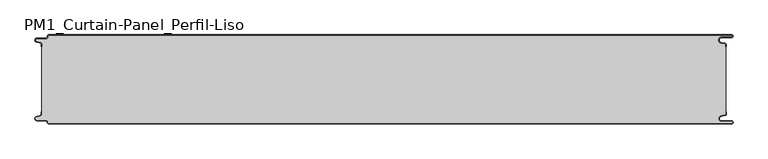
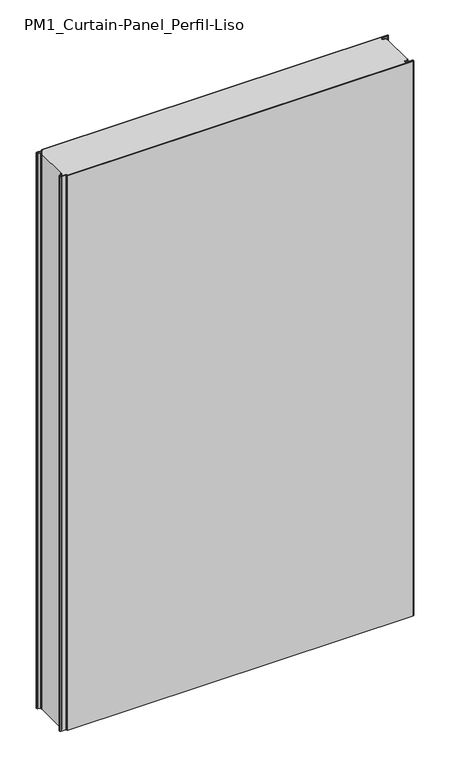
"""IFC4 building model written with IfcOpenShell, lengths in millimetres: plate geometry, PM1_Curtain-Panel_Perfil-Liso : ACH_PM1_Panel-Acústico-Sectorización_150M."""

import ifcopenshell
import ifcopenshell.guid

model = None  # the IFC model being written
_history = None  # IfcOwnerHistory: only IFC2X3 demands one
_inside = {}  # id of a spatial element -> (the spatial element, [elements in it])
_under = {}  # id of a project, library or spatial element -> (it, [spatial elements below it])
_declared = {}  # id of a project -> (the project, [libraries it declares])
_typed = {}  # id of a type object -> (the type object, [elements of that type])
_made_of = {}  # id of a material, layer set ... -> (it, [elements and type objects made of it])


def new_model(schema):
    """Start an empty IFC model of exactly this schema.

    Asked for "IFC4X3", IfcOpenShell would pick the latest addendum, in which some entities
    have other attributes; the version numbers below select the first issue.
    IFC2X3 requires an IfcOwnerHistory on every rooted entity: one is made here for all.
    """
    global model, _history
    if schema == "IFC4X3":
        model = ifcopenshell.file(schema_version=(4, 3, 0, 0))
    else:
        model = ifcopenshell.file(schema=schema)
    _inside.clear()
    _under.clear()
    _declared.clear()
    _typed.clear()
    _made_of.clear()
    _history = None
    if model.schema == "IFC2X3":
        org = make("IfcOrganization", Name="unknown")
        user = make(
            "IfcPersonAndOrganization",
            ThePerson=make("IfcPerson", FamilyName="unknown"),
            TheOrganization=org,
        )
        app = make(
            "IfcApplication",
            ApplicationDeveloper=org,
            Version="unknown",
            ApplicationFullName="unknown",
            ApplicationIdentifier="unknown",
        )
        _history = make(
            "IfcOwnerHistory",
            OwningUser=user,
            OwningApplication=app,
            ChangeAction="ADDED",
            CreationDate=0,
        )
    return model


def make(cls, **values):
    """One entity of the class cls with the attributes given. An attribute that is None is left unset."""
    return model.create_entity(
        cls, **{name: value for name, value in values.items() if value is not None}
    )


def rooted(cls, **values):
    """An entity with a GlobalId (a new one), such as an element, a storey or a relation."""
    return make(cls, GlobalId=ifcopenshell.guid.new(), OwnerHistory=_history, **values)


def si_unit(unit_type, name, prefix=None):
    """IfcSIUnit, for example si_unit("LENGTHUNIT", "METRE", prefix="MILLI")."""
    return make("IfcSIUnit", UnitType=unit_type, Prefix=prefix, Name=name)


def assignment(units):
    """IfcUnitAssignment: the units of a project."""
    return None if units is None else make("IfcUnitAssignment", Units=units)


def point(xyz):
    """IfcCartesianPoint."""
    return None if xyz is None else make("IfcCartesianPoint", Coordinates=xyz)


def direction(xyz):
    """IfcDirection."""
    return None if xyz is None else make("IfcDirection", DirectionRatios=xyz)


def frame(location, z_axis=None, x_axis=None):
    """IfcAxis2Placement3D, a coordinate frame: its origin and axes. An axis left out is left unset."""
    return make(
        "IfcAxis2Placement3D",
        Location=point(location),
        Axis=direction(z_axis),
        RefDirection=direction(x_axis),
    )


def frame_2d(location, x_axis=None):
    """IfcAxis2Placement2D, a coordinate frame in the plane: its origin and x axis."""
    return make(
        "IfcAxis2Placement2D", Location=point(location), RefDirection=direction(x_axis)
    )


def origin():
    """The frame at (0, 0, 0) with its axes left unset."""
    return frame((0.0, 0.0, 0.0))


def origin_with_axes():
    """The frame at (0, 0, 0) with the z axis (0, 0, 1) and the x axis (1, 0, 0) written out."""
    return frame((0.0, 0.0, 0.0), z_axis=(0.0, 0.0, 1.0), x_axis=(1.0, 0.0, 0.0))


def place(relative_to, where):
    """IfcLocalPlacement: puts the frame where relative to a parent placement (None: the world)."""
    return make(
        "IfcLocalPlacement", PlacementRelTo=relative_to, RelativePlacement=where
    )


def context(
    kind, dimensions, precision=None, world=None, true_north=None, identifier=None
):
    """IfcGeometricRepresentationContext, for example the 3D "Model" context."""
    return make(
        "IfcGeometricRepresentationContext",
        ContextIdentifier=identifier,
        ContextType=kind,
        CoordinateSpaceDimension=dimensions,
        Precision=precision,
        WorldCoordinateSystem=world,
        TrueNorth=true_north,
    )


def project(units=None, contexts=None):
    """IfcProject with its units and contexts."""
    return rooted(
        "IfcProject",
        Name="project",
        RepresentationContexts=contexts,
        UnitsInContext=assignment(units),
    )


def spatial(cls, under=None, at=None, **own):
    """A site, building, storey or space (cls), placed at a placement, below another one or the project."""
    s = rooted(cls, ObjectPlacement=at, **own)
    if under is not None:
        _under.setdefault(under.id(), (under, []))[1].append(s)
    return s


def polyline(points):
    """IfcPolyline through the points."""
    return make("IfcPolyline", Points=[point(p) for p in points])


def circle_curve(where, radius):
    """IfcCircle in the frame where."""
    return make("IfcCircle", Position=where, Radius=radius)


def trimmed(basis, trim1, trim2, sense, master):
    """IfcTrimmedCurve: the piece of a basis curve between two trims."""
    return make(
        "IfcTrimmedCurve",
        BasisCurve=basis,
        Trim1=trim1,
        Trim2=trim2,
        SenseAgreement=sense,
        MasterRepresentation=master,
    )


def segment(curve, same_sense, transition):
    """IfcCompositeCurveSegment."""
    return make(
        "IfcCompositeCurveSegment",
        Transition=transition,
        SameSense=same_sense,
        ParentCurve=curve,
    )


def composite_curve(segments, self_intersect=None):
    """IfcCompositeCurve: segments joined end to end."""
    return make("IfcCompositeCurve", Segments=segments, SelfIntersect=self_intersect)


def outline(outer, holes=None, kind="AREA"):
    """IfcArbitraryClosedProfileDef: a profile drawn as a closed curve; with holes, ...WithVoids."""
    if holes is None:
        return make("IfcArbitraryClosedProfileDef", ProfileType=kind, OuterCurve=outer)
    return make(
        "IfcArbitraryProfileDefWithVoids",
        ProfileType=kind,
        OuterCurve=outer,
        InnerCurves=holes,
    )


def extrude(swept, where, along, depth):
    """IfcExtrudedAreaSolid: the profile swept, set in the frame where, extruded along a direction by depth."""
    return make(
        "IfcExtrudedAreaSolid",
        SweptArea=swept,
        Position=where,
        ExtrudedDirection=direction(along),
        Depth=depth,
    )


def shape(context_of_items, identifier, shape_type, items):
    """IfcShapeRepresentation: the items that make up one representation, for example the "Body"."""
    return make(
        "IfcShapeRepresentation",
        ContextOfItems=context_of_items,
        RepresentationIdentifier=identifier,
        RepresentationType=shape_type,
        Items=items,
    )


def source(mapping_origin, context_of_items, identifier, shape_type, items):
    """IfcRepresentationMap: a shape defined once, which mapped items show again and again."""
    return make(
        "IfcRepresentationMap",
        MappingOrigin=mapping_origin,
        MappedRepresentation=shape(context_of_items, identifier, shape_type, items),
    )


def transform(
    local_origin,
    x_axis=None,
    y_axis=None,
    z_axis=None,
    scale=None,
    scale2=None,
    scale3=None,
    uniform=True,
):
    """IfcCartesianTransformationOperator3D, or its non-uniform kind. x_axis, y_axis, z_axis: its Axis1, 2, 3."""
    if uniform:
        return make(
            "IfcCartesianTransformationOperator3D",
            Axis1=direction(x_axis),
            Axis2=direction(y_axis),
            LocalOrigin=point(local_origin),
            Scale=scale,
            Axis3=direction(z_axis),
        )
    return make(
        "IfcCartesianTransformationOperator3DnonUniform",
        Axis1=direction(x_axis),
        Axis2=direction(y_axis),
        LocalOrigin=point(local_origin),
        Scale=scale,
        Axis3=direction(z_axis),
        Scale2=scale2,
        Scale3=scale3,
    )


def mapped(mapping_source, mapping_target):
    """IfcMappedItem: shows the shape of a source again, moved by a transform."""
    return make(
        "IfcMappedItem", MappingSource=mapping_source, MappingTarget=mapping_target
    )


def made_of(thing, what):
    """Note that an element or type object is made of a material, layer set ...; save() writes the relation."""
    if what is not None:
        _made_of.setdefault(what.id(), (what, []))[1].append(thing)
    return thing


def element(
    cls,
    number,
    at=None,
    inside=None,
    cuts=None,
    type_object=None,
    material=None,
    context=None,
    identifier="Body",
    shape_type=None,
    held_by="IfcProductDefinitionShape",
    body=None,
    shapes=None,
    **own,
):
    """One element of the class cls, such as IfcWall. Its Tag is "e" and its number.

    at: its placement. inside: the storey or other place that contains it. cuts: it is an
    opening in that element (IfcRelVoidsElement). A single representation is given by context,
    identifier, shape_type and body (its items); several are given by shapes. held_by: the class
    of the entity that holds the representations. save() writes the other relations.
    """
    e = rooted(cls, Tag="e%d" % number, ObjectPlacement=at, **own)
    if body is not None:
        shapes = [shape(context, identifier, shape_type, body)]
    if shapes is not None:
        e.Representation = make(held_by, Representations=shapes)
    if inside is not None:
        _inside.setdefault(inside.id(), (inside, []))[1].append(e)
    if cuts is not None:
        rooted(
            "IfcRelVoidsElement", RelatingBuildingElement=cuts, RelatedOpeningElement=e
        )
    if type_object is not None:
        _typed.setdefault(type_object.id(), (type_object, []))[1].append(e)
    return made_of(e, material)


def aggregate(whole, parts):
    """IfcRelAggregates: a whole, such as a stair, and the parts it consists of."""
    return rooted("IfcRelAggregates", RelatingObject=whole, RelatedObjects=parts)


def save(model, path):
    """Write the relations noted so far, then the file.

    IfcRelAggregates (storeys below a building ...), IfcRelContainedInSpatialStructure (elements
    in a storey), IfcRelDefinesByType, IfcRelAssociatesMaterial and IfcRelDeclares: one each for
    every whole, place, type object, material and project.
    """
    for whole, parts in _under.values():
        aggregate(whole, parts)
    for where, things in _inside.values():
        rooted(
            "IfcRelContainedInSpatialStructure",
            RelatedElements=things,
            RelatingStructure=where,
        )
    for kind, things in _typed.values():
        rooted("IfcRelDefinesByType", RelatedObjects=things, RelatingType=kind)
    for what, things in _made_of.values():
        rooted("IfcRelAssociatesMaterial", RelatedObjects=things, RelatingMaterial=what)
    for by, libraries in _declared.values():
        rooted("IfcRelDeclares", RelatingContext=by, RelatedDefinitions=libraries)
    model.write(path)


def plane_surface(at):
    """IfcPlane: the flat surface through the origin of the frame at, square to its z axis."""
    return make("IfcPlane", Position=at)


def cylinder_surface(at, radius):
    """IfcCylindricalSurface: all points at the distance radius from the z axis of the frame at."""
    return make("IfcCylindricalSurface", Position=at, Radius=radius)


def revolved_surface(curve, axis_point, axis_direction):
    """IfcSurfaceOfRevolution: the curve turned about the line through axis_point along axis_direction."""
    return make(
        "IfcSurfaceOfRevolution",
        SweptCurve=make("IfcArbitraryOpenProfileDef", ProfileType="CURVE", Curve=curve),
        AxisPosition=make("IfcAxis1Placement", Location=point(axis_point), Axis=direction(axis_direction)),
    )


def advanced_brep(points, edges, surfaces, faces):
    """IfcAdvancedBrep: a solid bounded by faces that lie on surfaces and meet in shared edges.

    An edge is (start, end): straight between two places in points (the first is 0);
    or (start, end, curve); or (start, end, curve, False) where it runs against its curve.
    A face is (place in surfaces, loops), or (place, loops, False) where it looks against
    its surface's normal. A loop lists edges by number (the first is 1), with a minus sign
    where the edge is run from its end to its start. The first loop is the outer one.
    """
    corners = [point(p) for p in points]
    vertices = [make("IfcVertexPoint", VertexGeometry=c) for c in corners]
    made = []
    for start, end, *more in edges:
        made.append(
            make(
                "IfcEdgeCurve",
                EdgeStart=vertices[start],
                EdgeEnd=vertices[end],
                EdgeGeometry=more[0] if more else make("IfcPolyline", Points=[corners[start], corners[end]]),
                SameSense=more[1] if len(more) > 1 else True,
            )
        )
    hull = []
    for where, loops, *sense in faces:
        bounds = []
        for j, loop in enumerate(loops):
            ring = [make("IfcOrientedEdge", EdgeElement=made[abs(k) - 1], Orientation=k > 0) for k in loop]
            bounds.append(
                make(
                    "IfcFaceOuterBound" if j == 0 else "IfcFaceBound",
                    Bound=make("IfcEdgeLoop", EdgeList=ring),
                    Orientation=True,
                )
            )
        hull.append(make("IfcAdvancedFace", Bounds=bounds, FaceSurface=surfaces[where], SameSense=sense[0] if sense else True))
    return make("IfcAdvancedBrep", Outer=make("IfcClosedShell", CfsFaces=hull))


def pm1_curtain_panel_perfil_liso_b736cf1f(model_context):
    return source(origin(), model_context, "Body", "SolidModel", [
        advanced_brep(
        [(583.1, 0.0, 1945.7507136), (-562.4, 0.0, 1945.7507136), (-564.4, -2.0, 1945.7507136), (-564.4, -3.4, 1945.7507136), (-566.4, -5.4, 1945.7507136), (-581.9, -5.4, 1945.7507136), (-582.7098239, -12.5077322, 1945.7507136), (-576.5500979, -13.929817, 1945.7507136), (-575.0, -15.878557, 1945.7507136), (-575.0, -20.0, 1945.7507136), (-574.2, -20.0, 1945.7507136), (-574.2, -15.878557, 1945.7507136), (-576.370137, -13.1503208, 1945.7507136), (-582.529863, -11.728236, 1945.7507136), (-581.9, -6.2, 1945.7507136), (-566.4, -6.2, 1945.7507136), (-563.6, -3.4, 1945.7507136), (-563.6, -2.0, 1945.7507136), (-562.4, -0.8, 1945.7507136), (583.1, -0.8, 1945.7507136), (583.1, -4.2, 1945.7507136), (566.1, -4.2, 1945.7507136), (565.266489, -13.7270773, 1945.7507136), (571.7125666, -14.8636942, 1945.7507136), (573.2, -16.636348, 1945.7507136), (573.2, -20.0, 1945.7507136), (574.0, -20.0, 1945.7507136), (574.0, -16.636348, 1945.7507136), (571.8514851, -14.0758478, 1945.7507136), (565.4054075, -12.9392309, 1945.7507136), (566.1, -5.0, 1945.7507136), (583.1, -5.0, 1945.7507136), (585.6, -2.5, 1945.7507136), (-562.4, 0.0, 0.0), (583.1, 0.0, 0.0), (585.6, -2.5, 0.0), (583.1, -5.0, 0.0), (566.1, -5.0, 0.0), (565.4054075, -12.939231, 0.0), (571.8514851, -14.075848, 0.0), (574.0, -16.636348, 0.0), (574.0, -20.0, 0.0), (573.2, -20.0, 0.0), (573.2, -16.636348, 0.0), (571.7125666, -14.863694, 0.0), (565.266489, -13.7270771, 0.0), (566.1, -4.2, 0.0), (583.1, -4.2, 0.0), (583.1, -0.8, 0.0), (-562.4, -0.8, 0.0), (-563.6, -2.0, 0.0), (-563.6, -3.4, 0.0), (-566.4, -6.2, 0.0), (-581.9, -6.2, 0.0), (-582.529863, -11.7282362, 0.0), (-576.370137, -13.150321, 0.0), (-574.2, -15.878557, 0.0), (-574.2, -20.0, 0.0), (-575.0, -20.0, 0.0), (-575.0, -15.878557, 0.0), (-576.5500978, -13.9298169, 0.0), (-582.7098239, -12.507732, 0.0), (-581.9, -5.4, 0.0), (-566.4, -5.4, 0.0), (-564.4, -3.4, 0.0), (-564.4, -2.0, 0.0)],
        [
            (0, 1),
            (1, 2, circle_curve(frame((-562.4, -2.0, 1945.7507136), z_axis=(0.0, 0.0, 1.0), x_axis=(1.0, 0.0, 0.0)), 2.0)),
            (2, 3),
            (3, 4, circle_curve(frame((-566.4, -3.4, 1945.7507136), z_axis=(0.0, 0.0, -1.0), x_axis=(1.0, 0.0, 0.0)), 2.0)),
            (4, 5),
            (5, 6, circle_curve(frame((-581.9, -9.0, 1945.7507136), z_axis=(0.0, 0.0, 1.0), x_axis=(1.0, 0.0, 0.0)), 3.6)),
            (6, 7),
            (7, 8, circle_curve(frame((-577.0, -15.878557, 1945.7507136), z_axis=(0.0, 0.0, -1.0), x_axis=(1.0, 0.0, 0.0)), 2.0)),
            (8, 9),
            (9, 10),
            (10, 11),
            (11, 12, circle_curve(frame((-577.0, -15.878557, 1945.7507136), z_axis=(0.0, 0.0, 1.0), x_axis=(1.0, 0.0, 0.0)), 2.8)),
            (12, 13),
            (13, 14, circle_curve(frame((-581.9, -9.0, 1945.7507136), z_axis=(0.0, 0.0, -1.0), x_axis=(1.0, 0.0, 0.0)), 2.8)),
            (14, 15),
            (15, 16, circle_curve(frame((-566.4, -3.4, 1945.7507136), z_axis=(0.0, 0.0, 1.0), x_axis=(1.0, 0.0, 0.0)), 2.8)),
            (16, 17),
            (17, 18, circle_curve(frame((-562.4, -2.0, 1945.7507136), z_axis=(0.0, 0.0, -1.0), x_axis=(1.0, 0.0, 0.0)), 1.2)),
            (18, 19),
            (19, 20, circle_curve(frame((583.1, -2.5, 1945.7507136), z_axis=(0.0, 0.0, -1.0), x_axis=(1.0, 0.0, 0.0)), 1.7)),
            (20, 21),
            (21, 22, circle_curve(frame((566.1, -9.0, 1945.7507136), z_axis=(0.0, 0.0, 1.0), x_axis=(1.0, 0.0, 0.0)), 4.8)),
            (22, 23),
            (23, 24, circle_curve(frame((571.4, -16.636348, 1945.7507136), z_axis=(0.0, 0.0, -1.0), x_axis=(1.0, 0.0, 0.0)), 1.8)),
            (24, 25),
            (25, 26),
            (26, 27),
            (27, 28, circle_curve(frame((571.4, -16.636348, 1945.7507136), z_axis=(0.0, 0.0, 1.0), x_axis=(1.0, 0.0, 0.0)), 2.6)),
            (28, 29),
            (29, 30, circle_curve(frame((566.1, -9.0, 1945.7507136), z_axis=(0.0, 0.0, -1.0), x_axis=(1.0, 0.0, 0.0)), 4.0)),
            (30, 31),
            (31, 32, circle_curve(frame((583.1, -2.5, 1945.7507136), z_axis=(0.0, 0.0, 1.0), x_axis=(1.0, 0.0, 0.0)), 2.5)),
            (32, 0, circle_curve(frame((583.1, -2.5, 1945.7507136), z_axis=(0.0, 0.0, 1.0), x_axis=(1.0, 0.0, 0.0)), 2.5)),
            (33, 34),
            (34, 35, circle_curve(frame((583.1, -2.5, 0.0), z_axis=(0.0, 0.0, -1.0), x_axis=(1.0, 0.0, 0.0)), 2.5)),
            (35, 36, circle_curve(frame((583.1, -2.5, 0.0), z_axis=(0.0, 0.0, -1.0), x_axis=(1.0, 0.0, 0.0)), 2.5)),
            (36, 37),
            (37, 38, circle_curve(frame((566.1, -9.0, 0.0), z_axis=(0.0, 0.0, 1.0), x_axis=(1.0, 0.0, 0.0)), 4.0)),
            (38, 39),
            (39, 40, circle_curve(frame((571.4, -16.636348, 0.0), z_axis=(0.0, 0.0, -1.0), x_axis=(1.0, 0.0, 0.0)), 2.6)),
            (40, 41),
            (41, 42),
            (42, 43),
            (43, 44, circle_curve(frame((571.4, -16.636348, 0.0), z_axis=(0.0, 0.0, 1.0), x_axis=(1.0, 0.0, 0.0)), 1.8)),
            (44, 45),
            (45, 46, circle_curve(frame((566.1, -9.0, 0.0), z_axis=(0.0, 0.0, -1.0), x_axis=(1.0, 0.0, 0.0)), 4.8)),
            (46, 47),
            (47, 48, circle_curve(frame((583.1, -2.5, 0.0), z_axis=(0.0, 0.0, 1.0), x_axis=(1.0, 0.0, 0.0)), 1.7)),
            (48, 49),
            (49, 50, circle_curve(frame((-562.4, -2.0, 0.0), z_axis=(0.0, 0.0, 1.0), x_axis=(1.0, 0.0, 0.0)), 1.2)),
            (50, 51),
            (51, 52, circle_curve(frame((-566.4, -3.4, 0.0), z_axis=(0.0, 0.0, -1.0), x_axis=(1.0, 0.0, 0.0)), 2.8)),
            (52, 53),
            (53, 54, circle_curve(frame((-581.9, -9.0, 0.0), z_axis=(0.0, 0.0, 1.0), x_axis=(1.0, 0.0, 0.0)), 2.8)),
            (54, 55),
            (55, 56, circle_curve(frame((-577.0, -15.878557, 0.0), z_axis=(0.0, 0.0, -1.0), x_axis=(1.0, 0.0, 0.0)), 2.8)),
            (56, 57),
            (57, 58),
            (58, 59),
            (59, 60, circle_curve(frame((-577.0, -15.878557, 0.0), z_axis=(0.0, 0.0, 1.0), x_axis=(1.0, 0.0, 0.0)), 2.0)),
            (60, 61),
            (61, 62, circle_curve(frame((-581.9, -9.0, 0.0), z_axis=(0.0, 0.0, -1.0), x_axis=(1.0, 0.0, 0.0)), 3.6)),
            (62, 63),
            (63, 64, circle_curve(frame((-566.4, -3.4, 0.0), z_axis=(0.0, 0.0, 1.0), x_axis=(1.0, 0.0, 0.0)), 2.0)),
            (64, 65),
            (65, 33, circle_curve(frame((-562.4, -2.0, 0.0), z_axis=(0.0, 0.0, -1.0), x_axis=(1.0, 0.0, 0.0)), 2.0)),
            (1, 33),
            (65, 2),
            (64, 3),
            (63, 4),
            (62, 5),
            (61, 6),
            (60, 7),
            (59, 8),
            (58, 9),
            (57, 10),
            (56, 11),
            (55, 12),
            (54, 13),
            (53, 14),
            (52, 15),
            (51, 16),
            (50, 17),
            (49, 18),
            (48, 19),
            (47, 20),
            (46, 21),
            (45, 22),
            (44, 23),
            (43, 24),
            (42, 25),
            (41, 26),
            (40, 27),
            (39, 28),
            (38, 29),
            (37, 30),
            (36, 31),
            (34, 0),
        ],
        [
            plane_surface(frame((-575.0, 0.0, 1945.7507136), z_axis=(0.0, 0.0, 1.0), x_axis=(0.0, 1.0, 0.0))),
            plane_surface(frame((-575.0, 0.0, 0.0), z_axis=(0.0, 0.0, -1.0), x_axis=(0.0, 1.0, 0.0))),
            cylinder_surface(frame((-562.4, -2.0, 1945.7507136), z_axis=(0.0, 0.0, 1.0), x_axis=(1.0, 0.0, 0.0)), 2.0),
            plane_surface(frame((-564.4, -2.0, 1945.7507136), z_axis=(-1.0, 0.0, 0.0), x_axis=(0.0, 0.0, -1.0))),
            revolved_surface(polyline([(-564.4, -3.4, 0.0), (-564.4, -3.4, 1945.7507136)]), (-566.4, -3.4, 1945.7507136), (0.0, 0.0, -1.0)),
            plane_surface(frame((-566.4, -5.4, 1945.7507136), z_axis=(0.0, 1.0, 0.0), x_axis=(0.0, 0.0, -1.0))),
            cylinder_surface(frame((-581.9, -9.0, 1945.7507136), z_axis=(0.0, 0.0, 1.0), x_axis=(1.0, 0.0, 0.0)), 3.6),
            plane_surface(frame((-582.7098239, -12.507732, 1945.7507136), z_axis=(-0.2249510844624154, -0.9743700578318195, 0.0), x_axis=(0.0, 0.0, -1.0))),
            revolved_surface(polyline([(-575.0, -15.878557, 0.0), (-575.0, -15.878557, 1945.7507136)]), (-577.0, -15.878557, 1945.7507136), (0.0, 0.0, -1.0)),
            plane_surface(frame((-575.0, -15.878557, 1945.7507136), z_axis=(-1.0, 0.0, 0.0), x_axis=(0.0, 0.0, -1.0))),
            plane_surface(frame((-575.0, -20.0, 1945.7507136), z_axis=(0.0, -1.0, 0.0), x_axis=(0.0, 0.0, -1.0))),
            plane_surface(frame((-574.2, -20.0, 1945.7507136), z_axis=(1.0, 0.0, 0.0), x_axis=(0.0, 0.0, -1.0))),
            cylinder_surface(frame((-577.0, -15.878557, 1945.7507136), z_axis=(0.0, 0.0, 1.0), x_axis=(1.0, 0.0, 0.0)), 2.8),
            plane_surface(frame((-576.370137, -13.150321, 1945.7507136), z_axis=(0.22495108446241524, 0.9743700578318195, 0.0), x_axis=(0.0, 0.0, -1.0))),
            revolved_surface(polyline([(-579.1, -9.0, 0.0), (-579.1, -9.0, 1945.7507136)]), (-581.9, -9.0, 1945.7507136), (0.0, 0.0, -1.0)),
            plane_surface(frame((-581.9, -6.2, 1945.7507136), z_axis=(0.0, -1.0, 0.0), x_axis=(0.0, 0.0, -1.0))),
            cylinder_surface(frame((-566.4, -3.4, 1945.7507136), z_axis=(0.0, 0.0, 1.0), x_axis=(1.0, 0.0, 0.0)), 2.8),
            plane_surface(frame((-563.6, -3.4, 1945.7507136), z_axis=(1.0, 0.0, 0.0), x_axis=(0.0, 0.0, -1.0))),
            revolved_surface(polyline([(-561.1999999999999, -2.0, 0.0), (-561.1999999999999, -2.0, 1945.7507136)]), (-562.4, -2.0, 1945.7507136), (0.0, 0.0, -1.0)),
            plane_surface(frame((560.890897, -0.8, 1945.7507136), z_axis=(0.0, -1.0, 0.0), x_axis=(0.0, 0.0, -1.0))),
            revolved_surface(polyline([(584.8000000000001, -2.5, 0.0), (584.8000000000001, -2.5, 1945.7507136)]), (583.1, -2.5, 1945.7507136), (0.0, 0.0, -1.0)),
            plane_surface(frame((583.1, -4.2, 1945.7507136), z_axis=(0.0, 1.0, 0.0), x_axis=(0.0, 0.0, -1.0))),
            cylinder_surface(frame((566.1, -9.0, 1945.7507136), z_axis=(0.0, 0.0, 1.0), x_axis=(1.0, 0.0, 0.0)), 4.8),
            plane_surface(frame((565.266489, -13.7270771, 1945.7507136), z_axis=(-0.1736481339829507, -0.9848077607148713, 0.0), x_axis=(0.0, 0.0, -1.0))),
            revolved_surface(polyline([(573.1999999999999, -16.636348, 0.0), (573.1999999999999, -16.636348, 1945.7507136)]), (571.4, -16.636348, 1945.7507136), (0.0, 0.0, -1.0)),
            plane_surface(frame((573.2, -16.636348, 1945.7507136), z_axis=(-1.0, 0.0, 0.0), x_axis=(0.0, 0.0, -1.0))),
            plane_surface(frame((573.2, -20.0, 1945.7507136), z_axis=(0.0, -1.0, 0.0), x_axis=(0.0, 0.0, -1.0))),
            plane_surface(frame((574.0, -20.0, 1945.7507136), z_axis=(1.0, 0.0, 0.0), x_axis=(0.0, 0.0, -1.0))),
            cylinder_surface(frame((571.4, -16.636348, 1945.7507136), z_axis=(0.0, 0.0, 1.0), x_axis=(1.0, 0.0, 0.0)), 2.6),
            plane_surface(frame((571.8514851, -14.075848, 1945.7507136), z_axis=(0.17364813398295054, 0.9848077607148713, 0.0), x_axis=(0.0, 0.0, -1.0))),
            revolved_surface(polyline([(570.1, -9.0, 0.0), (570.1, -9.0, 1945.7507136)]), (566.1, -9.0, 1945.7507136), (0.0, 0.0, -1.0)),
            plane_surface(frame((566.1, -5.0, 1945.7507136), z_axis=(0.0, -1.0, 0.0), x_axis=(0.0, 0.0, -1.0))),
            cylinder_surface(frame((583.1, -2.5, 1945.7507136), z_axis=(0.0, 0.0, 1.0), x_axis=(1.0, 0.0, 0.0)), 2.5),
            plane_surface(frame((510.5961529, 0.0, 1945.7507136), z_axis=(0.0, 1.0, 0.0), x_axis=(0.0, 0.0, -1.0))),
        ],
        [
            (0, [[1, 2, 3, 4, 5, 6, 7, 8, 9, 10, 11, 12, 13, 14, 15, 16, 17, 18, 19, 20, 21, 22, 23, 24, 25, 26, 27, 28, 29, 30, 31, 32, 33]]),
            (1, [[34, 35, 36, 37, 38, 39, 40, 41, 42, 43, 44, 45, 46, 47, 48, 49, 50, 51, 52, 53, 54, 55, 56, 57, 58, 59, 60, 61, 62, 63, 64, 65, 66]]),
            (2, [[-2, 67, -66, 68]]),
            (3, [[-3, -68, -65, 69]]),
            (4, [[-4, -69, -64, 70]]),
            (5, [[-5, -70, -63, 71]]),
            (6, [[-6, -71, -62, 72]]),
            (7, [[-7, -72, -61, 73]]),
            (8, [[-8, -73, -60, 74]]),
            (9, [[-9, -74, -59, 75]]),
            (10, [[-10, -75, -58, 76]]),
            (11, [[-11, -76, -57, 77]]),
            (12, [[-12, -77, -56, 78]]),
            (13, [[-13, -78, -55, 79]]),
            (14, [[-14, -79, -54, 80]]),
            (15, [[-15, -80, -53, 81]]),
            (16, [[-16, -81, -52, 82]]),
            (17, [[-17, -82, -51, 83]]),
            (18, [[-18, -83, -50, 84]]),
            (19, [[-19, -84, -49, 85]]),
            (20, [[-20, -85, -48, 86]]),
            (21, [[-21, -86, -47, 87]]),
            (22, [[-22, -87, -46, 88]]),
            (23, [[-23, -88, -45, 89]]),
            (24, [[-24, -89, -44, 90]]),
            (25, [[-25, -90, -43, 91]]),
            (26, [[-26, -91, -42, 92]]),
            (27, [[-27, -92, -41, 93]]),
            (28, [[-28, -93, -40, 94]]),
            (29, [[-29, -94, -39, 95]]),
            (30, [[-30, -95, -38, 96]]),
            (31, [[-31, -96, -37, 97]]),
            (32, [[-97, -36, -35, 98, -33, -32]]),
            (33, [[-1, -98, -34, -67]]),
        ],
    ),
        extrude(outline(composite_curve([segment(polyline([(-574.2, -134.1214426), (-574.2, -15.8785573)]), True, "CONTINUOUS"), segment(trimmed(circle_curve(frame_2d((-577.0, -15.8785573)), 2.8), [point((-574.2, -15.8785573))], [point((-576.370137, -13.1503212))], True, "CARTESIAN"), True, "CONTINUOUS"), segment(polyline([(-576.370137, -13.1503212), (-582.5298631, -11.7282362)]), True, "CONTINUOUS"), segment(trimmed(circle_curve(frame_2d((-581.9, -9.0)), 2.8), [point((-582.5298631, -11.7282362))], [point((-581.9, -6.2))], False, "CARTESIAN"), True, "CONTINUOUS"), segment(polyline([(-581.9, -6.2), (-566.4000001, -6.2)]), True, "CONTINUOUS"), segment(trimmed(circle_curve(frame_2d((-566.4000001, -3.4)), 2.8), [point((-566.4000001, -6.2))], [point((-563.6000001, -3.4))], True, "CARTESIAN"), True, "CONTINUOUS"), segment(polyline([(-563.6000001, -3.4), (-563.6000001, -2.0)]), True, "CONTINUOUS"), segment(trimmed(circle_curve(frame_2d((-562.4000001, -2.0)), 1.2), [point((-563.6000001, -2.0))], [point((-562.4000001, -0.8))], False, "CARTESIAN"), True, "CONTINUOUS"), segment(polyline([(-562.4000001, -0.8), (583.1, -0.8)]), True, "CONTINUOUS"), segment(trimmed(circle_curve(frame_2d((583.1, -2.5)), 1.7), [point((583.1, -0.8))], [point((583.1, -4.2))], False, "CARTESIAN"), True, "CONTINUOUS"), segment(polyline([(583.1, -4.2), (566.1, -4.2)]), True, "CONTINUOUS"), segment(trimmed(circle_curve(frame_2d((566.1, -9.0)), 4.8), [point((566.1, -4.2))], [point((565.2664883, -13.7270771))], True, "CARTESIAN"), True, "CONTINUOUS"), segment(polyline([(565.2664883, -13.7270771), (571.7125668, -14.8636953)]), True, "CONTINUOUS"), segment(trimmed(circle_curve(frame_2d((571.4, -16.6363492)), 1.8), [point((571.7125668, -14.8636953))], [point((573.2, -16.6363492))], False, "CARTESIAN"), True, "CONTINUOUS"), segment(polyline([(573.2, -16.6363492), (573.2, -133.3636508)]), True, "CONTINUOUS"), segment(trimmed(circle_curve(frame_2d((571.4, -133.3636508)), 1.8), [point((573.2, -133.3636508))], [point((571.7125668, -135.1363047))], False, "CARTESIAN"), True, "CONTINUOUS"), segment(polyline([(571.7125668, -135.1363047), (565.2664883, -136.2729229)]), True, "CONTINUOUS"), segment(trimmed(circle_curve(frame_2d((566.1, -141.0)), 4.8), [point((565.2664883, -136.2729229))], [point((566.1, -145.8))], True, "CARTESIAN"), True, "CONTINUOUS"), segment(polyline([(566.1, -145.8), (583.1, -145.8)]), True, "CONTINUOUS"), segment(trimmed(circle_curve(frame_2d((583.1, -147.5)), 1.7), [point((583.1, -145.8))], [point((583.1, -149.2))], False, "CARTESIAN"), True, "CONTINUOUS"), segment(polyline([(583.1, -149.2), (-562.4000001, -149.2)]), True, "CONTINUOUS"), segment(trimmed(circle_curve(frame_2d((-562.4000001, -148.0)), 1.2), [point((-562.4000001, -149.2))], [point((-563.6000001, -148.0))], False, "CARTESIAN"), True, "CONTINUOUS"), segment(polyline([(-563.6000001, -148.0), (-563.6000001, -146.6)]), True, "CONTINUOUS"), segment(trimmed(circle_curve(frame_2d((-566.4000001, -146.6)), 2.8), [point((-563.6000001, -146.6))], [point((-566.4000001, -143.8))], True, "CARTESIAN"), True, "CONTINUOUS"), segment(polyline([(-566.4000001, -143.8), (-581.9, -143.8)]), True, "CONTINUOUS"), segment(trimmed(circle_curve(frame_2d((-581.9, -141.0)), 2.8), [point((-581.9, -143.8))], [point((-582.5298631, -138.2717638))], False, "CARTESIAN"), True, "CONTINUOUS"), segment(polyline([(-582.5298631, -138.2717638), (-576.370137, -136.8496788)]), True, "CONTINUOUS"), segment(trimmed(circle_curve(frame_2d((-577.0, -134.1214426)), 2.8), [point((-576.370137, -136.8496788))], [point((-574.2, -134.1214426))], True, "CARTESIAN"), True, "CONTINUOUS")], self_intersect=False)), origin_with_axes(), (0.0, 0.0, 1.0), 1945.7507136),
        advanced_brep(
        [(-562.4, -150.0, 1945.7507136), (583.1, -150.0, 1945.7507136), (585.6, -147.5, 1945.7507136), (583.1, -145.0, 1945.7507136), (566.1, -145.0, 1945.7507136), (565.4054075, -137.060769, 1945.7507136), (571.8514851, -135.924152, 1945.7507136), (574.0, -133.363652, 1945.7507136), (574.0, -130.0, 1945.7507136), (573.2, -130.0, 1945.7507136), (573.2, -133.363652, 1945.7507136), (571.7125666, -135.136306, 1945.7507136), (565.266489, -136.2729229, 1945.7507136), (566.1, -145.8, 1945.7507136), (583.1, -145.8, 1945.7507136), (583.1, -149.2, 1945.7507136), (-562.4, -149.2, 1945.7507136), (-563.6, -148.0, 1945.7507136), (-563.6, -146.6, 1945.7507136), (-566.4, -143.8, 1945.7507136), (-581.9, -143.8, 1945.7507136), (-582.529863, -138.2717638, 1945.7507136), (-576.370137, -136.849679, 1945.7507136), (-574.2, -134.121443, 1945.7507136), (-574.2, -130.0, 1945.7507136), (-575.0, -130.0, 1945.7507136), (-575.0, -134.121443, 1945.7507136), (-576.5500978, -136.0701831, 1945.7507136), (-582.7098239, -137.492268, 1945.7507136), (-581.9, -144.6, 1945.7507136), (-566.4, -144.6, 1945.7507136), (-564.4, -146.6, 1945.7507136), (-564.4, -148.0, 1945.7507136), (583.1, -150.0, 0.0), (-562.4, -150.0, 0.0), (-564.4, -148.0, 0.0), (-564.4, -146.6, 0.0), (-566.4, -144.6, 0.0), (-581.9, -144.6, 0.0), (-582.7098239, -137.4922678, 0.0), (-576.5500979, -136.070183, 0.0), (-575.0, -134.121443, 0.0), (-575.0, -130.0, 0.0), (-574.2, -130.0, 0.0), (-574.2, -134.121443, 0.0), (-576.370137, -136.8496792, 0.0), (-582.529863, -138.271764, 0.0), (-581.9, -143.8, 0.0), (-566.4, -143.8, 0.0), (-563.6, -146.6, 0.0), (-563.6, -148.0, 0.0), (-562.4, -149.2, 0.0), (583.1, -149.2, 0.0), (583.1, -145.8, 0.0), (566.1, -145.8, 0.0), (565.266489, -136.2729227, 0.0), (571.7125666, -135.1363058, 0.0), (573.2, -133.363652, 0.0), (573.2, -130.0, 0.0), (574.0, -130.0, 0.0), (574.0, -133.363652, 0.0), (571.8514851, -135.9241522, 0.0), (565.4054075, -137.0607691, 0.0), (566.1, -145.0, 0.0), (583.1, -145.0, 0.0), (585.6, -147.5, 0.0)],
        [
            (0, 1),
            (1, 2, circle_curve(frame((583.1, -147.5, 1945.7507136), z_axis=(0.0, 0.0, 1.0), x_axis=(1.0, 0.0, 0.0)), 2.5)),
            (2, 3, circle_curve(frame((583.1, -147.5, 1945.7507136), z_axis=(0.0, 0.0, 1.0), x_axis=(1.0, 0.0, 0.0)), 2.5)),
            (3, 4),
            (4, 5, circle_curve(frame((566.1, -141.0, 1945.7507136), z_axis=(0.0, 0.0, -1.0), x_axis=(1.0, 0.0, 0.0)), 4.0)),
            (5, 6),
            (6, 7, circle_curve(frame((571.4, -133.363652, 1945.7507136), z_axis=(0.0, 0.0, 1.0), x_axis=(1.0, 0.0, 0.0)), 2.6)),
            (7, 8),
            (8, 9),
            (9, 10),
            (10, 11, circle_curve(frame((571.4, -133.363652, 1945.7507136), z_axis=(0.0, 0.0, -1.0), x_axis=(1.0, 0.0, 0.0)), 1.8)),
            (11, 12),
            (12, 13, circle_curve(frame((566.1, -141.0, 1945.7507136), z_axis=(0.0, 0.0, 1.0), x_axis=(1.0, 0.0, 0.0)), 4.8)),
            (13, 14),
            (14, 15, circle_curve(frame((583.1, -147.5, 1945.7507136), z_axis=(0.0, 0.0, -1.0), x_axis=(1.0, 0.0, 0.0)), 1.7)),
            (15, 16),
            (16, 17, circle_curve(frame((-562.4, -148.0, 1945.7507136), z_axis=(0.0, 0.0, -1.0), x_axis=(1.0, 0.0, 0.0)), 1.2)),
            (17, 18),
            (18, 19, circle_curve(frame((-566.4, -146.6, 1945.7507136), z_axis=(0.0, 0.0, 1.0), x_axis=(1.0, 0.0, 0.0)), 2.8)),
            (19, 20),
            (20, 21, circle_curve(frame((-581.9, -141.0, 1945.7507136), z_axis=(0.0, 0.0, -1.0), x_axis=(1.0, 0.0, 0.0)), 2.8)),
            (21, 22),
            (22, 23, circle_curve(frame((-577.0, -134.121443, 1945.7507136), z_axis=(0.0, 0.0, 1.0), x_axis=(1.0, 0.0, 0.0)), 2.8)),
            (23, 24),
            (24, 25),
            (25, 26),
            (26, 27, circle_curve(frame((-577.0, -134.121443, 1945.7507136), z_axis=(0.0, 0.0, -1.0), x_axis=(1.0, 0.0, 0.0)), 2.0)),
            (27, 28),
            (28, 29, circle_curve(frame((-581.9, -141.0, 1945.7507136), z_axis=(0.0, 0.0, 1.0), x_axis=(1.0, 0.0, 0.0)), 3.6)),
            (29, 30),
            (30, 31, circle_curve(frame((-566.4, -146.6, 1945.7507136), z_axis=(0.0, 0.0, -1.0), x_axis=(1.0, 0.0, 0.0)), 2.0)),
            (31, 32),
            (32, 0, circle_curve(frame((-562.4, -148.0, 1945.7507136), z_axis=(0.0, 0.0, 1.0), x_axis=(1.0, 0.0, 0.0)), 2.0)),
            (33, 34),
            (34, 35, circle_curve(frame((-562.4, -148.0, 0.0), z_axis=(0.0, 0.0, -1.0), x_axis=(1.0, 0.0, 0.0)), 2.0)),
            (35, 36),
            (36, 37, circle_curve(frame((-566.4, -146.6, 0.0), z_axis=(0.0, 0.0, 1.0), x_axis=(1.0, 0.0, 0.0)), 2.0)),
            (37, 38),
            (38, 39, circle_curve(frame((-581.9, -141.0, 0.0), z_axis=(0.0, 0.0, -1.0), x_axis=(1.0, 0.0, 0.0)), 3.6)),
            (39, 40),
            (40, 41, circle_curve(frame((-577.0, -134.121443, 0.0), z_axis=(0.0, 0.0, 1.0), x_axis=(1.0, 0.0, 0.0)), 2.0)),
            (41, 42),
            (42, 43),
            (43, 44),
            (44, 45, circle_curve(frame((-577.0, -134.121443, 0.0), z_axis=(0.0, 0.0, -1.0), x_axis=(1.0, 0.0, 0.0)), 2.8)),
            (45, 46),
            (46, 47, circle_curve(frame((-581.9, -141.0, 0.0), z_axis=(0.0, 0.0, 1.0), x_axis=(1.0, 0.0, 0.0)), 2.8)),
            (47, 48),
            (48, 49, circle_curve(frame((-566.4, -146.6, 0.0), z_axis=(0.0, 0.0, -1.0), x_axis=(1.0, 0.0, 0.0)), 2.8)),
            (49, 50),
            (50, 51, circle_curve(frame((-562.4, -148.0, 0.0), z_axis=(0.0, 0.0, 1.0), x_axis=(1.0, 0.0, 0.0)), 1.2)),
            (51, 52),
            (52, 53, circle_curve(frame((583.1, -147.5, 0.0), z_axis=(0.0, 0.0, 1.0), x_axis=(1.0, 0.0, 0.0)), 1.7)),
            (53, 54),
            (54, 55, circle_curve(frame((566.1, -141.0, 0.0), z_axis=(0.0, 0.0, -1.0), x_axis=(1.0, 0.0, 0.0)), 4.8)),
            (55, 56),
            (56, 57, circle_curve(frame((571.4, -133.363652, 0.0), z_axis=(0.0, 0.0, 1.0), x_axis=(1.0, 0.0, 0.0)), 1.8)),
            (57, 58),
            (58, 59),
            (59, 60),
            (60, 61, circle_curve(frame((571.4, -133.363652, 0.0), z_axis=(0.0, 0.0, -1.0), x_axis=(1.0, 0.0, 0.0)), 2.6)),
            (61, 62),
            (62, 63, circle_curve(frame((566.1, -141.0, 0.0), z_axis=(0.0, 0.0, 1.0), x_axis=(1.0, 0.0, 0.0)), 4.0)),
            (63, 64),
            (64, 65, circle_curve(frame((583.1, -147.5, 0.0), z_axis=(0.0, 0.0, -1.0), x_axis=(1.0, 0.0, 0.0)), 2.5)),
            (65, 33, circle_curve(frame((583.1, -147.5, 0.0), z_axis=(0.0, 0.0, -1.0), x_axis=(1.0, 0.0, 0.0)), 2.5)),
            (0, 34),
            (33, 1),
            (64, 3),
            (63, 4),
            (62, 5),
            (61, 6),
            (60, 7),
            (59, 8),
            (58, 9),
            (57, 10),
            (56, 11),
            (55, 12),
            (54, 13),
            (53, 14),
            (52, 15),
            (51, 16),
            (50, 17),
            (49, 18),
            (48, 19),
            (47, 20),
            (46, 21),
            (45, 22),
            (44, 23),
            (43, 24),
            (42, 25),
            (41, 26),
            (40, 27),
            (39, 28),
            (38, 29),
            (37, 30),
            (36, 31),
            (35, 32),
        ],
        [
            plane_surface(frame((-575.0, -150.0, 1945.7507136), z_axis=(0.0, 0.0, 1.0), x_axis=(0.0, 1.0, 0.0))),
            plane_surface(frame((-575.0, -150.0, 0.0), z_axis=(0.0, 0.0, -1.0), x_axis=(0.0, 1.0, 0.0))),
            plane_surface(frame((560.890897, -150.0, 1945.7507136), z_axis=(0.0, -1.0, 0.0), x_axis=(0.0, 0.0, -1.0))),
            cylinder_surface(frame((583.1, -147.5, 1945.7507136), z_axis=(0.0, 0.0, 1.0), x_axis=(1.0, 0.0, 0.0)), 2.5),
            plane_surface(frame((583.1, -145.0, 1945.7507136), z_axis=(0.0, 1.0, 0.0), x_axis=(0.0, 0.0, -1.0))),
            revolved_surface(polyline([(570.1, -141.0, 0.0), (570.1, -141.0, 1945.7507136)]), (566.1, -141.0, 1945.7507136), (0.0, 0.0, -1.0)),
            plane_surface(frame((565.4054075, -137.0607691, 1945.7507136), z_axis=(0.17364813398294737, -0.9848077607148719, 0.0), x_axis=(0.0, 0.0, -1.0))),
            cylinder_surface(frame((571.4, -133.363652, 1945.7507136), z_axis=(0.0, 0.0, 1.0), x_axis=(1.0, 0.0, 0.0)), 2.6),
            plane_surface(frame((574.0, -133.363652, 1945.7507136), z_axis=(1.0, 0.0, 0.0), x_axis=(0.0, 0.0, -1.0))),
            plane_surface(frame((574.0, -130.0, 1945.7507136), z_axis=(0.0, 1.0, 0.0), x_axis=(0.0, 0.0, -1.0))),
            plane_surface(frame((573.2, -130.0, 1945.7507136), z_axis=(-1.0, 0.0, 0.0), x_axis=(0.0, 0.0, -1.0))),
            revolved_surface(polyline([(573.1999999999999, -133.363652, 0.0), (573.1999999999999, -133.363652, 1945.7507136)]), (571.4, -133.363652, 1945.7507136), (0.0, 0.0, -1.0)),
            plane_surface(frame((571.7125666, -135.1363058, 1945.7507136), z_axis=(-0.17364813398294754, 0.9848077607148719, 0.0), x_axis=(0.0, 0.0, -1.0))),
            cylinder_surface(frame((566.1, -141.0, 1945.7507136), z_axis=(0.0, 0.0, 1.0), x_axis=(1.0, 0.0, 0.0)), 4.8),
            plane_surface(frame((566.1, -145.8, 1945.7507136), z_axis=(0.0, -1.0, 0.0), x_axis=(0.0, 0.0, -1.0))),
            revolved_surface(polyline([(584.8000000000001, -147.5, 0.0), (584.8000000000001, -147.5, 1945.7507136)]), (583.1, -147.5, 1945.7507136), (0.0, 0.0, -1.0)),
            plane_surface(frame((510.8105122, -149.2, 1945.7507136), z_axis=(0.0, 1.0, 0.0), x_axis=(0.0, 0.0, -1.0))),
            revolved_surface(polyline([(-561.1999999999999, -148.0, 0.0), (-561.1999999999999, -148.0, 1945.7507136)]), (-562.4, -148.0, 1945.7507136), (0.0, 0.0, -1.0)),
            plane_surface(frame((-563.6, -148.0, 1945.7507136), z_axis=(1.0, 0.0, 0.0), x_axis=(0.0, 0.0, -1.0))),
            cylinder_surface(frame((-566.4, -146.6, 1945.7507136), z_axis=(0.0, 0.0, 1.0), x_axis=(1.0, 0.0, 0.0)), 2.8),
            plane_surface(frame((-566.4, -143.8, 1945.7507136), z_axis=(0.0, 1.0, 0.0), x_axis=(0.0, 0.0, -1.0))),
            revolved_surface(polyline([(-579.1, -141.0, 0.0), (-579.1, -141.0, 1945.7507136)]), (-581.9, -141.0, 1945.7507136), (0.0, 0.0, -1.0)),
            plane_surface(frame((-582.529863, -138.271764, 1945.7507136), z_axis=(0.2249510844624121, -0.9743700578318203, 0.0), x_axis=(0.0, 0.0, -1.0))),
            cylinder_surface(frame((-577.0, -134.121443, 1945.7507136), z_axis=(0.0, 0.0, 1.0), x_axis=(1.0, 0.0, 0.0)), 2.8),
            plane_surface(frame((-574.2, -134.121443, 1945.7507136), z_axis=(1.0, 0.0, 0.0), x_axis=(0.0, 0.0, -1.0))),
            plane_surface(frame((-574.2, -130.0, 1945.7507136), z_axis=(0.0, 1.0, 0.0), x_axis=(0.0, 0.0, -1.0))),
            plane_surface(frame((-575.0, -130.0, 1945.7507136), z_axis=(-1.0, 0.0, 0.0), x_axis=(0.0, 0.0, -1.0))),
            revolved_surface(polyline([(-575.0, -134.121443, 0.0), (-575.0, -134.121443, 1945.7507136)]), (-577.0, -134.121443, 1945.7507136), (0.0, 0.0, -1.0)),
            plane_surface(frame((-576.5500979, -136.070183, 1945.7507136), z_axis=(-0.22495108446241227, 0.9743700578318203, 0.0), x_axis=(0.0, 0.0, -1.0))),
            cylinder_surface(frame((-581.9, -141.0, 1945.7507136), z_axis=(0.0, 0.0, 1.0), x_axis=(1.0, 0.0, 0.0)), 3.6),
            plane_surface(frame((-581.9, -144.6, 1945.7507136), z_axis=(0.0, -1.0, 0.0), x_axis=(0.0, 0.0, -1.0))),
            revolved_surface(polyline([(-564.4, -146.6, 0.0), (-564.4, -146.6, 1945.7507136)]), (-566.4, -146.6, 1945.7507136), (0.0, 0.0, -1.0)),
            plane_surface(frame((-564.4, -146.6, 1945.7507136), z_axis=(-1.0, 0.0, 0.0), x_axis=(0.0, 0.0, -1.0))),
            cylinder_surface(frame((-562.4, -148.0, 1945.7507136), z_axis=(0.0, 0.0, 1.0), x_axis=(1.0, 0.0, 0.0)), 2.0),
        ],
        [
            (0, [[1, 2, 3, 4, 5, 6, 7, 8, 9, 10, 11, 12, 13, 14, 15, 16, 17, 18, 19, 20, 21, 22, 23, 24, 25, 26, 27, 28, 29, 30, 31, 32, 33]]),
            (1, [[34, 35, 36, 37, 38, 39, 40, 41, 42, 43, 44, 45, 46, 47, 48, 49, 50, 51, 52, 53, 54, 55, 56, 57, 58, 59, 60, 61, 62, 63, 64, 65, 66]]),
            (2, [[-1, 67, -34, 68]]),
            (3, [[-68, -66, -65, 69, -3, -2]]),
            (4, [[-4, -69, -64, 70]]),
            (5, [[-5, -70, -63, 71]]),
            (6, [[-6, -71, -62, 72]]),
            (7, [[-7, -72, -61, 73]]),
            (8, [[-8, -73, -60, 74]]),
            (9, [[-9, -74, -59, 75]]),
            (10, [[-10, -75, -58, 76]]),
            (11, [[-11, -76, -57, 77]]),
            (12, [[-12, -77, -56, 78]]),
            (13, [[-13, -78, -55, 79]]),
            (14, [[-14, -79, -54, 80]]),
            (15, [[-15, -80, -53, 81]]),
            (16, [[-16, -81, -52, 82]]),
            (17, [[-17, -82, -51, 83]]),
            (18, [[-18, -83, -50, 84]]),
            (19, [[-19, -84, -49, 85]]),
            (20, [[-20, -85, -48, 86]]),
            (21, [[-21, -86, -47, 87]]),
            (22, [[-22, -87, -46, 88]]),
            (23, [[-23, -88, -45, 89]]),
            (24, [[-24, -89, -44, 90]]),
            (25, [[-25, -90, -43, 91]]),
            (26, [[-26, -91, -42, 92]]),
            (27, [[-27, -92, -41, 93]]),
            (28, [[-28, -93, -40, 94]]),
            (29, [[-29, -94, -39, 95]]),
            (30, [[-30, -95, -38, 96]]),
            (31, [[-31, -96, -37, 97]]),
            (32, [[-32, -97, -36, 98]]),
            (33, [[-33, -98, -35, -67]]),
        ],
    ),
    ])


if __name__ == "__main__":
    model = new_model("IFC4")
    model_context = context("Model", 3, world=origin())
    ifc_project = project(units=[si_unit("LENGTHUNIT", "METRE", prefix="MILLI")], contexts=[model_context])
    site = spatial("IfcSite", under=ifc_project)
    building = spatial("IfcBuilding", under=site)
    placement = place(None, origin())
    pm1_curtain_panel_perfil_liso_shape = pm1_curtain_panel_perfil_liso_b736cf1f(model_context)
    element("IfcPlate", 1, ObjectType="PM1_Curtain-Panel_Perfil-Liso : ACH_PM1_Panel-Acústico-Sectorización_150M", at=placement, inside=building, context=model_context, shape_type="MappedRepresentation", body=[
        mapped(pm1_curtain_panel_perfil_liso_shape, transform((0.0, 0.0, 0.0), x_axis=(1.0, 0.0, 0.0), y_axis=(0.0, 1.0, 0.0), z_axis=(0.0, 0.0, 1.0))),
    ])
    save(model, "model.ifc")
